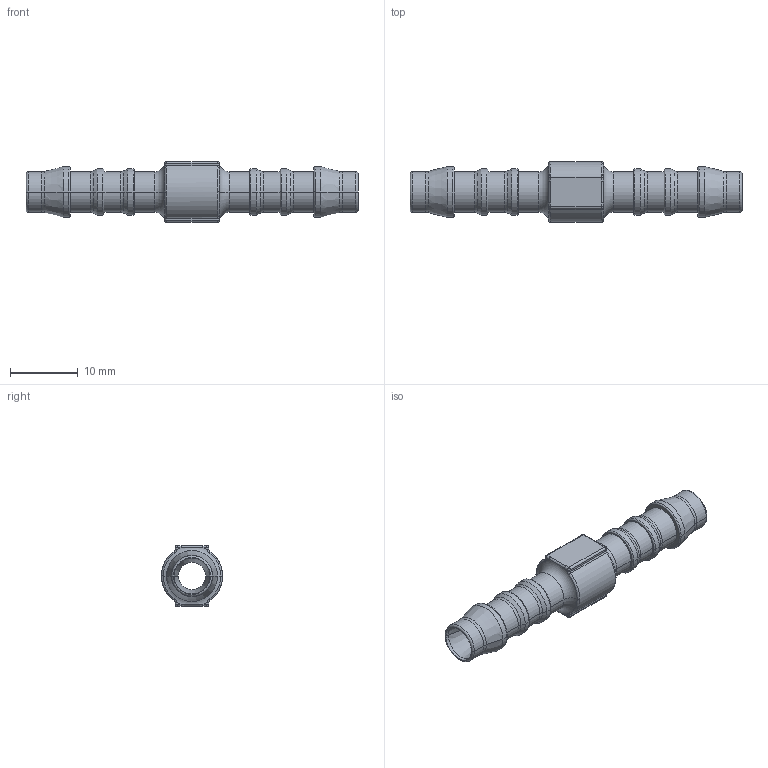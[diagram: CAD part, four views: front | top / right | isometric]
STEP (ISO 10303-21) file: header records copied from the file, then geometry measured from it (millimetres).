
FILE_DESCRIPTION (( 'STEP AP214' ), '1' );
FILE_NAME ('140400095X400.STEP', '2024-05-07T13:34:02', ( '' ), ( '' ), 'SwSTEP 2.0', 'SolidWorks 2020', '' );
FILE_SCHEMA (( 'AUTOMOTIVE_DESIGN' ));
Length unit declared in the file: mil
Products named in the file (1): 140400095X400
Bounding box: 49 x 9 x 9 mm (x, y, z)
Volume: 1170.6 mm3; surface area: 1804.3 mm2
Topology: 1 solids, 1 shells, 170 faces, 370 edges, 200 vertices
Faces by surface type: cylinder 60, torus 44, plane 22, bspline 20, cone 16, sphere 8
Entity records: 5470 total; most frequent: CARTESIAN_POINT 1789, DIRECTION 848, ORIENTED_EDGE 724, AXIS2_PLACEMENT_3D 375, EDGE_CURVE 362, CIRCLE 224, VERTEX_POINT 200, EDGE_LOOP 178
